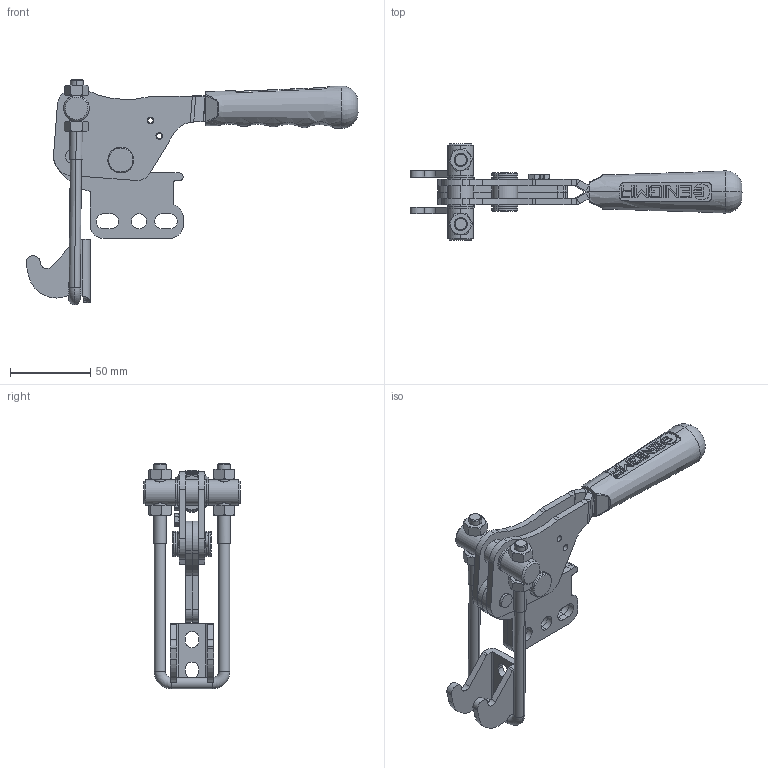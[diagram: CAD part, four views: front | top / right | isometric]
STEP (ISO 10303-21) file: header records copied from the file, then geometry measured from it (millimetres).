
FILE_DESCRIPTION (( 'STEP AP203' ), '1' );
FILE_NAME ('13208_D.STEP', '2022-11-30T08:57:06', ( '' ), ( '' ), 'SwSTEP 2.0', 'SolidWorks 2023', '' );
FILE_SCHEMA (( 'CONFIG_CONTROL_DESIGN' ));
Length unit declared in the file: millimetre
Products named in the file (13): M8_M10_KK; Mirror13108_H.KOLU_2022_Varsay_X2_0131_X0_lan; _X2_00d8_X0_6x18_P(PER_X2_00c70130_X0_N)_Varsay_X2_0131_X0_lan; 13108_H.KOLU_2022_Varsay_X2_0131_X0_lan; M8x50_U_KANCA_Varsayılan; C95_Yeni_Tutamak_Varsay_X2_0131_X0_lan; Mirror2022_13108_13110_Y_G_X2_00d6_X0_VDE_1; 13208_D; 13108_OTOMAT_Varsay_X2_0131_X0_lan; M4_S; 13108_OTOMAT_2_Varsay_X2_0131_X0_lan; 2022_13108_13110_Y_G_X2_00d6_X0_VDE_1; M8 Somun
Assembly tree (16 placements, depth 2):
  13208_D
    2022_13108_13110_Y_G_X2_00d6_X0_VDE_1
    13108_OTOMAT_Varsay_X2_0131_X0_lan
    13108_OTOMAT_2_Varsay_X2_0131_X0_lan
    13108_H.KOLU_2022_Varsay_X2_0131_X0_lan
    Mirror13108_H.KOLU_2022_Varsay_X2_0131_X0_lan
    Mirror2022_13108_13110_Y_G_X2_00d6_X0_VDE_1
    M8_M10_KK
    C95_Yeni_Tutamak_Varsay_X2_0131_X0_lan
    _X2_00d8_X0_6x18_P(PER_X2_00c70130_X0_N)_Varsay_X2_0131_X0_lan
    M8 Somun  x4
    M4_S  x2
    M8x50_U_KANCA_Varsayılan
Bounding box: 206.93 x 60 x 140.53 mm (x, y, z)
Volume: 130724.2 mm3; surface area: 70766 mm2
Topology: 16 solids, 16 shells, 694 faces, 1838 edges, 1195 vertices
Faces by surface type: plane 290, cylinder 260, cone 76, bspline 44, torus 22, sphere 2
Entity records: 34581 total; most frequent: CARTESIAN_POINT 19333, ORIENTED_EDGE 2950, DIRECTION 2757, EDGE_CURVE 1475, AXIS2_PLACEMENT_3D 973, VERTEX_POINT 955, LINE 811, VECTOR 811
